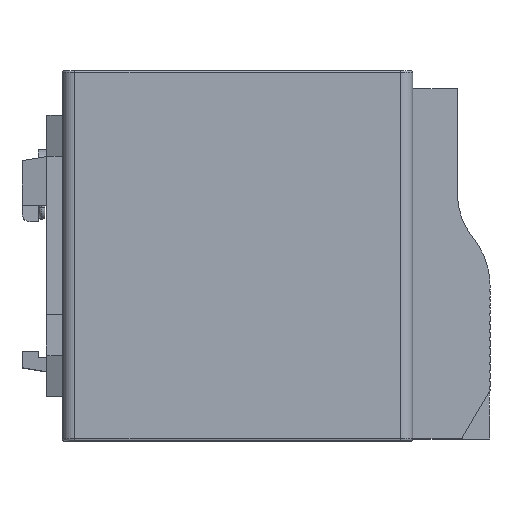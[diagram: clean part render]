
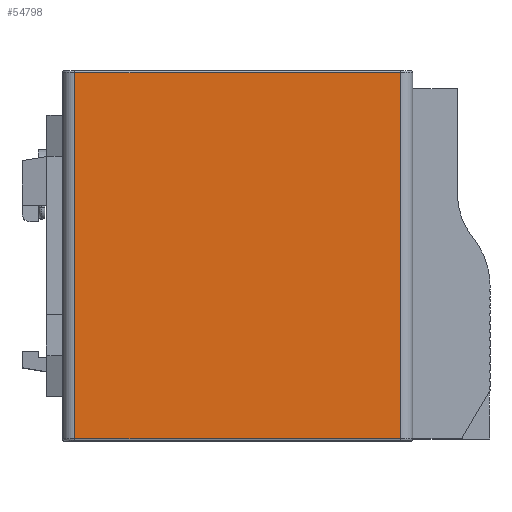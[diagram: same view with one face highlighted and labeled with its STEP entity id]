
A CAD part, top view. The second image highlights one B-rep face of the part: STEP entity #54798.
In plain terms, the highlighted planar face has unit normal (0, 0, 1).
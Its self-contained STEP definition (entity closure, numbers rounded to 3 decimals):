
#1189 = CARTESIAN_POINT ( 'NONE',  ( -40., 91., 43. ) ) ;
#1679 = CARTESIAN_POINT ( 'NONE',  ( 40., 90.5, 43. ) ) ;
#2327 = DIRECTION ( 'NONE',  ( 0., -1., 0. ) ) ;
#3443 = VERTEX_POINT ( 'NONE', #1679 ) ;
#5419 = AXIS2_PLACEMENT_3D ( 'NONE', #42451, #56606, #8922 ) ;
#6290 = LINE ( 'NONE', #84154, #35750 ) ;
#8922 = DIRECTION ( 'NONE',  ( -1., 0., 0. ) ) ;
#20318 = LINE ( 'NONE', #1189, #53983 ) ;
#20800 = EDGE_CURVE ( 'NONE', #52240, #34288, #20318, .T. ) ;
#25782 = VERTEX_POINT ( 'NONE', #72421 ) ;
#31847 = CARTESIAN_POINT ( 'NONE',  ( -40., 0.5, 43. ) ) ;
#34288 = VERTEX_POINT ( 'NONE', #31847 ) ;
#35750 = VECTOR ( 'NONE', #36361, 1000. ) ;
#36190 = LINE ( 'NONE', #74346, #39401 ) ;
#36361 = DIRECTION ( 'NONE',  ( 0., -1., 0. ) ) ;
#36821 = PLANE ( 'NONE',  #5419 ) ;
#37936 = ORIENTED_EDGE ( 'NONE', *, *, #20800, .T. ) ;
#38971 = VECTOR ( 'NONE', #57139, 1000. ) ;
#39401 = VECTOR ( 'NONE', #75533, 1000. ) ;
#42451 = CARTESIAN_POINT ( 'NONE',  ( -40., 91., 43. ) ) ;
#46437 = EDGE_CURVE ( 'NONE', #3443, #25782, #6290, .T. ) ;
#51447 = EDGE_CURVE ( 'NONE', #34288, #25782, #59030, .T. ) ;
#52240 = VERTEX_POINT ( 'NONE', #55691 ) ;
#53983 = VECTOR ( 'NONE', #2327, 1000. ) ;
#54798 = ADVANCED_FACE ( 'NONE', ( #74768 ), #36821, .F. ) ;
#55691 = CARTESIAN_POINT ( 'NONE',  ( -40., 90.5, 43. ) ) ;
#56606 = DIRECTION ( 'NONE',  ( 0., 0., -1. ) ) ;
#57139 = DIRECTION ( 'NONE',  ( 1., 0., 0. ) ) ;
#59030 = LINE ( 'NONE', #70990, #38971 ) ;
#64088 = ORIENTED_EDGE ( 'NONE', *, *, #82727, .T. ) ;
#69925 = ORIENTED_EDGE ( 'NONE', *, *, #46437, .F. ) ;
#70990 = CARTESIAN_POINT ( 'NONE',  ( -40., 0.5, 43. ) ) ;
#72421 = CARTESIAN_POINT ( 'NONE',  ( 40., 0.5, 43. ) ) ;
#74346 = CARTESIAN_POINT ( 'NONE',  ( -40., 90.5, 43. ) ) ;
#74524 = ORIENTED_EDGE ( 'NONE', *, *, #51447, .T. ) ;
#74768 = FACE_OUTER_BOUND ( 'NONE', #85974, .T. ) ;
#75533 = DIRECTION ( 'NONE',  ( -1., 0., 0. ) ) ;
#82727 = EDGE_CURVE ( 'NONE', #3443, #52240, #36190, .T. ) ;
#84154 = CARTESIAN_POINT ( 'NONE',  ( 40., 91., 43. ) ) ;
#85974 = EDGE_LOOP ( 'NONE', ( #69925, #64088, #37936, #74524 ) ) ;
